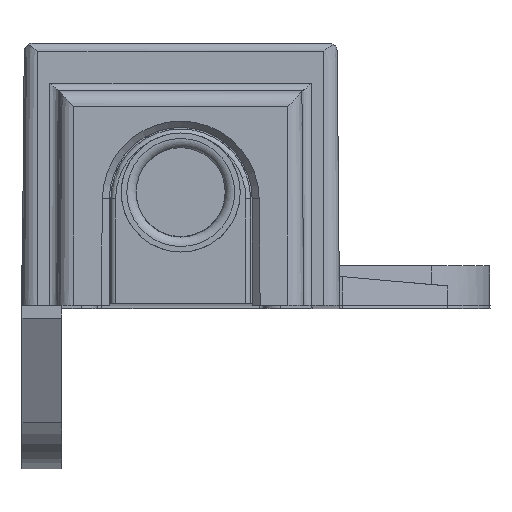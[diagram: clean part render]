
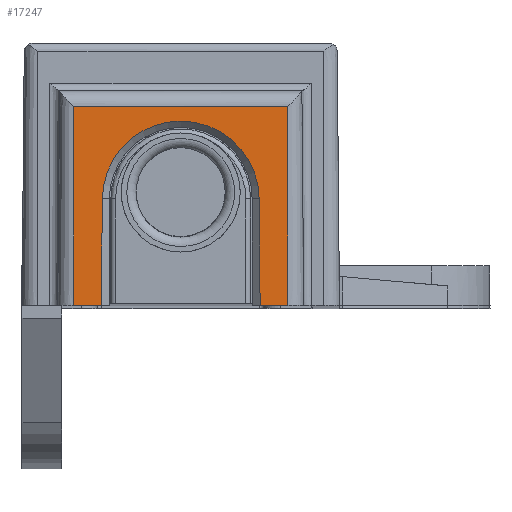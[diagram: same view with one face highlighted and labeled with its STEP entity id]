
A CAD part, top view. The second image highlights one B-rep face of the part: STEP entity #17247.
In plain terms, the highlighted planar face has unit normal (0, 0.009, 1).
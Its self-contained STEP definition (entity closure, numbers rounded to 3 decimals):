
#14608=CARTESIAN_POINT('',(6.75,0.0,3.5));
#14609=VERTEX_POINT('',#14608);
#14617=CARTESIAN_POINT('',(5.,0.0,3.5));
#14618=VERTEX_POINT('',#14617);
#14619=CARTESIAN_POINT('',(5.,0.0,3.5));
#14620=DIRECTION('',(1.0,0.0,0.0));
#14621=VECTOR('',#14620,1.75);
#14622=LINE('',#14619,#14621);
#14623=EDGE_CURVE('',#14618,#14609,#14622,.T.);
#14975=CARTESIAN_POINT('',(-5.,0.0,3.5));
#14976=VERTEX_POINT('',#14975);
#14983=CARTESIAN_POINT('',(-6.75,0.0,3.5));
#14984=VERTEX_POINT('',#14983);
#14985=CARTESIAN_POINT('',(-6.75,0.0,3.5));
#14986=DIRECTION('',(1.0,0.0,0.0));
#14987=VECTOR('',#14986,1.75);
#14988=LINE('',#14985,#14987);
#14989=EDGE_CURVE('',#14984,#14976,#14988,.T.);
#16992=CARTESIAN_POINT('',(-4.942,6.7,3.442));
#16993=VERTEX_POINT('',#16992);
#16994=CARTESIAN_POINT('',(4.942,6.7,3.442));
#16995=VERTEX_POINT('',#16994);
#16996=CARTESIAN_POINT('',(0.0,6.657,3.442));
#16997=DIRECTION('',(0.,-0.009,-1.));
#16998=DIRECTION('',(0.,-1.,0.009));
#16999=AXIS2_PLACEMENT_3D('',#16996,#16997,#16998);
#17000=ELLIPSE('',#16999,4.942,4.942);
#17001=EDGE_CURVE('',#16993,#16995,#17000,.T.);
#17203=CARTESIAN_POINT('',(6.75,0.0,3.5));
#17204=DIRECTION('',(0.0,0.009,1.));
#17205=DIRECTION('',(1.0,0.0,0.0));
#17206=AXIS2_PLACEMENT_3D('',#17203,#17204,#17205);
#17207=PLANE('',#17206);
#17208=ORIENTED_EDGE('',*,*,#17001,.T.);
#17209=CARTESIAN_POINT('',(4.942,6.7,3.442));
#17210=DIRECTION('',(0.009,-1.,0.009));
#17211=VECTOR('',#17210,6.701);
#17212=LINE('',#17209,#17211);
#17213=EDGE_CURVE('',#16995,#14618,#17212,.T.);
#17214=ORIENTED_EDGE('',*,*,#17213,.T.);
#17215=ORIENTED_EDGE('',*,*,#14623,.T.);
#17216=CARTESIAN_POINT('',(6.75,12.509,3.391));
#17217=VERTEX_POINT('',#17216);
#17218=CARTESIAN_POINT('',(6.75,0.0,3.5));
#17219=DIRECTION('',(0.0,1.,-0.009));
#17220=VECTOR('',#17219,12.509);
#17221=LINE('',#17218,#17220);
#17222=EDGE_CURVE('',#14609,#17217,#17221,.T.);
#17223=ORIENTED_EDGE('',*,*,#17222,.T.);
#17224=CARTESIAN_POINT('',(-6.75,12.509,3.391));
#17225=VERTEX_POINT('',#17224);
#17226=CARTESIAN_POINT('',(-6.75,12.509,3.391));
#17227=DIRECTION('',(1.0,0.0,0.0));
#17228=VECTOR('',#17227,13.5);
#17229=LINE('',#17226,#17228);
#17230=EDGE_CURVE('',#17225,#17217,#17229,.T.);
#17231=ORIENTED_EDGE('',*,*,#17230,.F.);
#17232=CARTESIAN_POINT('',(-6.75,0.0,3.5));
#17233=DIRECTION('',(0.0,1.,-0.009));
#17234=VECTOR('',#17233,12.509);
#17235=LINE('',#17232,#17234);
#17236=EDGE_CURVE('',#14984,#17225,#17235,.T.);
#17237=ORIENTED_EDGE('',*,*,#17236,.F.);
#17238=ORIENTED_EDGE('',*,*,#14989,.T.);
#17239=CARTESIAN_POINT('',(-5.,0.,3.5));
#17240=DIRECTION('',(0.009,1.,-0.009));
#17241=VECTOR('',#17240,6.701);
#17242=LINE('',#17239,#17241);
#17243=EDGE_CURVE('',#14976,#16993,#17242,.T.);
#17244=ORIENTED_EDGE('',*,*,#17243,.T.);
#17245=EDGE_LOOP('',(#17208,#17214,#17215,#17223,#17231,#17237,#17238,#17244));
#17246=FACE_OUTER_BOUND('',#17245,.T.);
#17247=ADVANCED_FACE('',(#17246),#17207,.T.);
